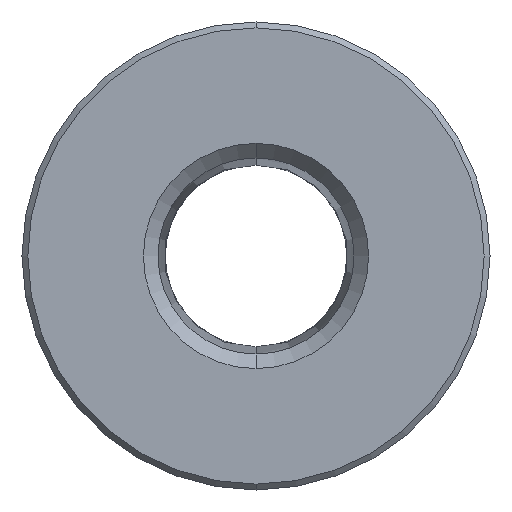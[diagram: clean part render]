
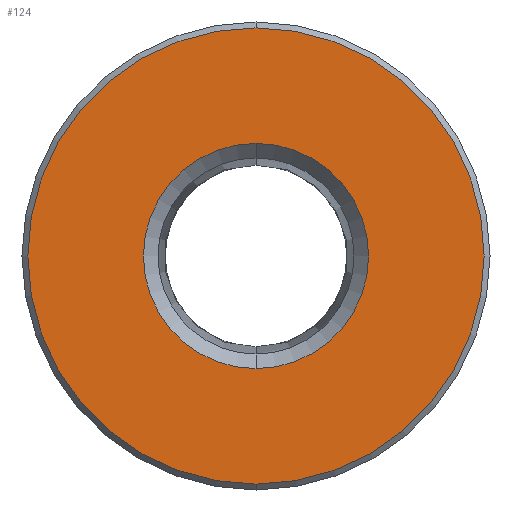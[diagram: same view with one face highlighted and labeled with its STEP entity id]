
A CAD part, front view. The second image highlights one B-rep face of the part: STEP entity #124.
In plain terms, the highlighted planar face has unit normal (0, -1, 0).
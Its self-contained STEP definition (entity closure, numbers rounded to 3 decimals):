
#12 = DIRECTION ( 'NONE',  ( 0., 0., -1. ) ) ;
#47 = CARTESIAN_POINT ( 'NONE',  ( 0., 0., 0. ) ) ;
#57 = AXIS2_PLACEMENT_3D ( 'NONE', #223, #366, #618 ) ;
#84 = DIRECTION ( 'NONE',  ( 0., 0., -1. ) ) ;
#101 = ORIENTED_EDGE ( 'NONE', *, *, #483, .T. ) ;
#123 = CARTESIAN_POINT ( 'NONE',  ( 0., 0., 0. ) ) ;
#124 = ADVANCED_FACE ( 'NONE', ( #214, #328 ), #517, .T. ) ;
#143 = DIRECTION ( 'NONE',  ( 0., -1., 0. ) ) ;
#163 = CIRCLE ( 'NONE', #527, 3.85 ) ;
#178 = DIRECTION ( 'NONE',  ( 0., 0., -1. ) ) ;
#193 = EDGE_LOOP ( 'NONE', ( #504, #101 ) ) ;
#197 = ORIENTED_EDGE ( 'NONE', *, *, #199, .T. ) ;
#199 = EDGE_CURVE ( 'NONE', #236, #593, #163, .T. ) ;
#209 = CARTESIAN_POINT ( 'NONE',  ( 0., 0., -7.8 ) ) ;
#214 = FACE_BOUND ( 'NONE', #254, .T. ) ;
#223 = CARTESIAN_POINT ( 'NONE',  ( -8., 0., 0. ) ) ;
#236 = VERTEX_POINT ( 'NONE', #580 ) ;
#238 = AXIS2_PLACEMENT_3D ( 'NONE', #123, #573, #84 ) ;
#254 = EDGE_LOOP ( 'NONE', ( #197, #440 ) ) ;
#259 = AXIS2_PLACEMENT_3D ( 'NONE', #285, #143, #294 ) ;
#263 = CIRCLE ( 'NONE', #238, 3.85 ) ;
#284 = CIRCLE ( 'NONE', #259, 7.8 ) ;
#285 = CARTESIAN_POINT ( 'NONE',  ( 0., 0., 0. ) ) ;
#294 = DIRECTION ( 'NONE',  ( 0., 0., -1. ) ) ;
#307 = EDGE_CURVE ( 'NONE', #593, #236, #263, .T. ) ;
#328 = FACE_OUTER_BOUND ( 'NONE', #193, .T. ) ;
#366 = DIRECTION ( 'NONE',  ( 0., -1., 0. ) ) ;
#371 = CIRCLE ( 'NONE', #461, 7.8 ) ;
#412 = CARTESIAN_POINT ( 'NONE',  ( 0., 0., 7.8 ) ) ;
#440 = ORIENTED_EDGE ( 'NONE', *, *, #307, .T. ) ;
#461 = AXIS2_PLACEMENT_3D ( 'NONE', #509, #550, #12 ) ;
#483 = EDGE_CURVE ( 'NONE', #547, #553, #371, .T. ) ;
#490 = CARTESIAN_POINT ( 'NONE',  ( 0., 0., 3.85 ) ) ;
#504 = ORIENTED_EDGE ( 'NONE', *, *, #578, .T. ) ;
#509 = CARTESIAN_POINT ( 'NONE',  ( 0., 0., 0. ) ) ;
#517 = PLANE ( 'NONE',  #57 ) ;
#526 = DIRECTION ( 'NONE',  ( 0., 1., 0. ) ) ;
#527 = AXIS2_PLACEMENT_3D ( 'NONE', #47, #526, #178 ) ;
#547 = VERTEX_POINT ( 'NONE', #209 ) ;
#550 = DIRECTION ( 'NONE',  ( 0., -1., 0. ) ) ;
#553 = VERTEX_POINT ( 'NONE', #412 ) ;
#573 = DIRECTION ( 'NONE',  ( 0., 1., 0. ) ) ;
#578 = EDGE_CURVE ( 'NONE', #553, #547, #284, .T. ) ;
#580 = CARTESIAN_POINT ( 'NONE',  ( 0., 0., -3.85 ) ) ;
#593 = VERTEX_POINT ( 'NONE', #490 ) ;
#618 = DIRECTION ( 'NONE',  ( 0., 0., -1. ) ) ;
